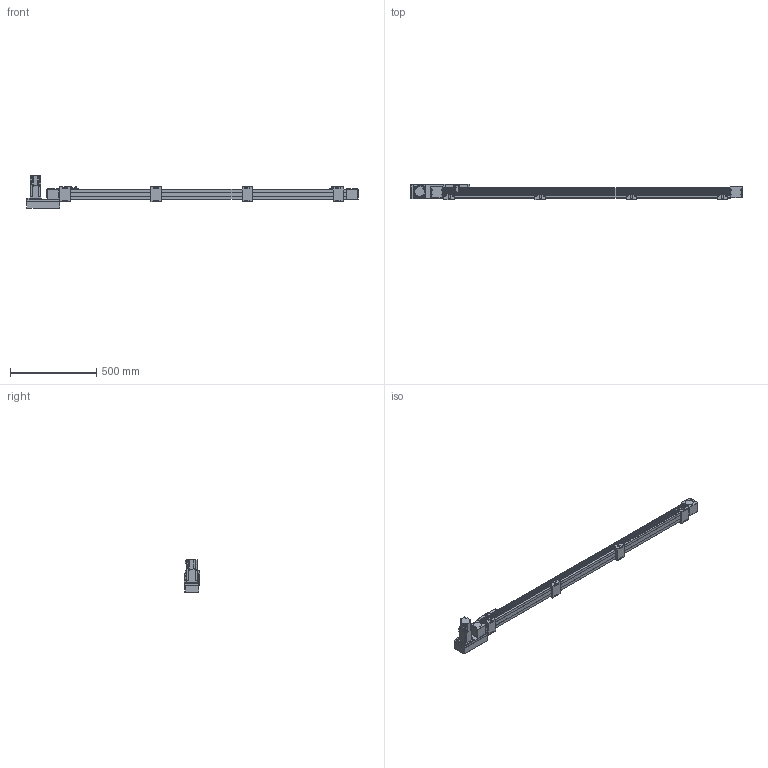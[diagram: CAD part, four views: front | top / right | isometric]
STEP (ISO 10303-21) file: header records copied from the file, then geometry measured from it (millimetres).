
FILE_DESCRIPTION(/* description */ ('STEP AP214'),/* implementation_level */ '2;1');
FILE_NAME(/* name */ 'SK60-P13-S1500-L-T40-C1-N(0)',/* time_stamp */ '2023-04-06T04:11:03+02:00',/* author */ ('License CC BY-ND 4.0'),/* organization */ ('CADENAS'),/* preprocessor_version */ 'ST-DEVELOPER v19.3',/* originating_system */ 'PARTsolutions',/* authorisation */ ' ');
FILE_SCHEMA (('AUTOMOTIVE_DESIGN {1 0 10303 214 3 1 1}'));
Length unit declared in the file: millimetre
Products named in the file (10): SK60-P13-S1500-L-T40-C1-N(0); PSC140-sensor; SK60-S450_seat; SK60-S450-BL-C1_slider; SK60_body3; SK60_body6; SK60-BL_body2; T40-p1; SK60-L_fb; SK60-S1500-L-C1_body
Assembly tree (18 placements, depth 2):
  SK60-P13-S1500-L-T40-C1-N(0)
    PSC140-sensor  x3
    SK60-S450_seat  x4
    SK60-S450-BL-C1_slider
    SK60_body3  x3
    SK60_body6  x2
    SK60-BL_body2  x2
    T40-p1
    SK60-L_fb
    SK60-S1500-L-C1_body
Bounding box: 1920.5 x 90 x 189.7 mm (x, y, z)
Volume: 7367551.4 mm3; surface area: 905013.5 mm2
Topology: 18 solids, 18 shells, 898 faces, 2244 edges, 1477 vertices
Faces by surface type: plane 572, cylinder 294, cone 30, torus 2
Full cylindrical faces by diameter (mm): 2.8 x3, 3.3 x4, 4 x2, 4.5 x30, 4.6 x3, 4.917 x24, 5 x6, 5.478 x4, 5.5 x27, 6.5 x8, 7 x2, 8 x4, 8.5 x4, 9.988 x4, 10 x16, 14 x1, 47 x3, 50 x2
Entity records: 18671 total; most frequent: DIRECTION 3188, CARTESIAN_POINT 3152, ORIENTED_EDGE 2940, EDGE_CURVE 1470, AXIS2_PLACEMENT_3D 1070, LINE 1048, VECTOR 1048, VERTEX_POINT 1034
